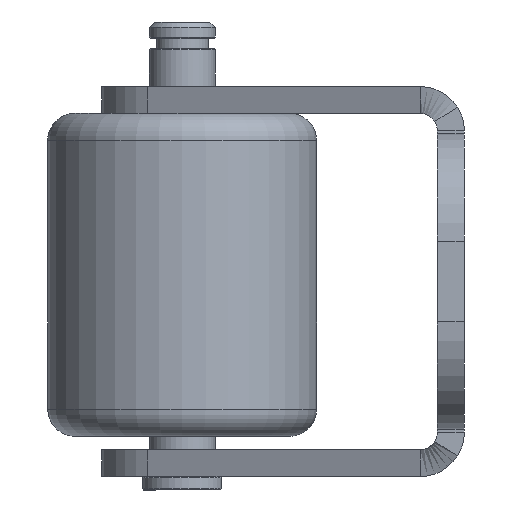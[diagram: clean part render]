
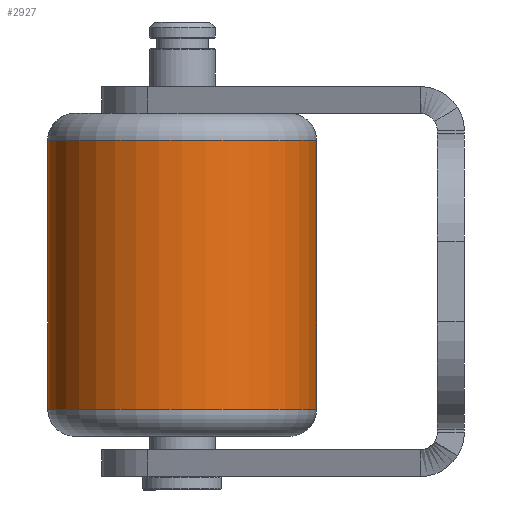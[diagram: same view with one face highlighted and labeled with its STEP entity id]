
A CAD part, left-side view. The second image highlights one B-rep face of the part: STEP entity #2927.
In plain terms, the highlighted cylindrical face has radius 31.75 mm (diameter 63.5 mm), a full revolution.
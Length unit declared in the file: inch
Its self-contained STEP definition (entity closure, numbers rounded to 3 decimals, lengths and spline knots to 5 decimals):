
#134 = CYLINDRICAL_SURFACE ( 'NONE', #1188, 1.25 ) ;
#411 = CARTESIAN_POINT ( 'NONE',  ( -7.6959, 1.20244, 1.92444 ) ) ;
#454 = VERTEX_POINT ( 'NONE', #2269 ) ;
#477 = AXIS2_PLACEMENT_3D ( 'NONE', #1749, #2787, #669 ) ;
#669 = DIRECTION ( 'NONE',  ( 0., -1., 0. ) ) ;
#678 = ORIENTED_EDGE ( 'NONE', *, *, #757, .T. ) ;
#698 = EDGE_CURVE ( 'NONE', #454, #454, #2472, .T. ) ;
#711 = EDGE_LOOP ( 'NONE', ( #678 ) ) ;
#757 = EDGE_CURVE ( 'NONE', #2248, #2248, #2521, .T. ) ;
#899 = DIRECTION ( 'NONE',  ( 0., 1., 0. ) ) ;
#934 = FACE_OUTER_BOUND ( 'NONE', #711, .T. ) ;
#937 = DIRECTION ( 'NONE',  ( 0., -1., 0. ) ) ;
#1188 = AXIS2_PLACEMENT_3D ( 'NONE', #411, #3204, #899 ) ;
#1391 = AXIS2_PLACEMENT_3D ( 'NONE', #1503, #3253, #937 ) ;
#1503 = CARTESIAN_POINT ( 'NONE',  ( -7.6959, 1.20244, 1.67444 ) ) ;
#1749 = CARTESIAN_POINT ( 'NONE',  ( -7.6959, 1.20244, -0.82556 ) ) ;
#2248 = VERTEX_POINT ( 'NONE', #2538 ) ;
#2269 = CARTESIAN_POINT ( 'NONE',  ( -7.6959, -0.04756, 1.67444 ) ) ;
#2436 = FACE_OUTER_BOUND ( 'NONE', #2919, .T. ) ;
#2472 = CIRCLE ( 'NONE', #1391, 1.25 ) ;
#2521 = CIRCLE ( 'NONE', #477, 1.25 ) ;
#2538 = CARTESIAN_POINT ( 'NONE',  ( -7.6959, -0.04756, -0.82556 ) ) ;
#2787 = DIRECTION ( 'NONE',  ( 0., 0., 1. ) ) ;
#2919 = EDGE_LOOP ( 'NONE', ( #2954 ) ) ;
#2927 = ADVANCED_FACE ( 'NONE', ( #934, #2436 ), #134, .T. ) ;
#2954 = ORIENTED_EDGE ( 'NONE', *, *, #698, .T. ) ;
#3204 = DIRECTION ( 'NONE',  ( 0., 0., -1. ) ) ;
#3253 = DIRECTION ( 'NONE',  ( 0., 0., -1. ) ) ;
